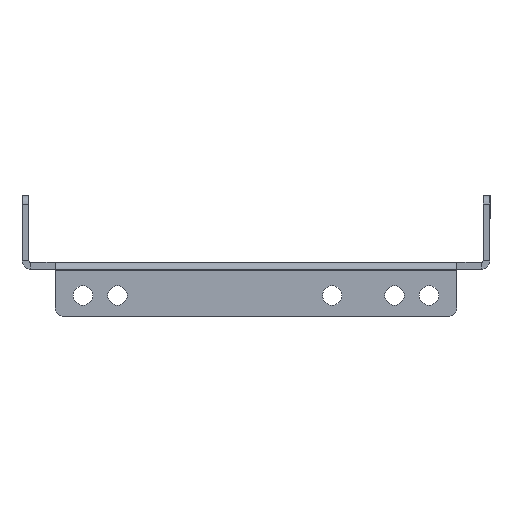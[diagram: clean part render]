
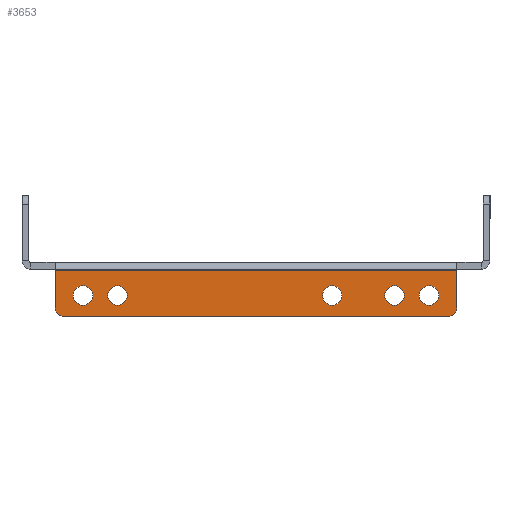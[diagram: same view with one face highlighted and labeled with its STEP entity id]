
A CAD part, left-side view. The second image highlights one B-rep face of the part: STEP entity #3653.
In plain terms, the highlighted planar face has unit normal (-1, 0, 0).
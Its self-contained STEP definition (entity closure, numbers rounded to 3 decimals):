
#50 = AXIS2_PLACEMENT_3D ( 'NONE', #1709, #1687, #351 ) ;
#53 = CARTESIAN_POINT ( 'NONE',  ( -550., -72.5, -14. ) ) ;
#65 = CARTESIAN_POINT ( 'NONE',  ( -550., -69.5, -14. ) ) ;
#74 = CARTESIAN_POINT ( 'NONE',  ( -550., -27.5, -9.5 ) ) ;
#77 = CARTESIAN_POINT ( 'NONE',  ( -550., 50., -13. ) ) ;
#94 = CARTESIAN_POINT ( 'NONE',  ( -550., 62.5, -9.5 ) ) ;
#130 = DIRECTION ( 'NONE',  ( 0., 0., -1. ) ) ;
#185 = FACE_BOUND ( 'NONE', #3485, .T. ) ;
#201 = VERTEX_POINT ( 'NONE', #492 ) ;
#233 = DIRECTION ( 'NONE',  ( 0., 0., 1. ) ) ;
#253 = CARTESIAN_POINT ( 'NONE',  ( -550., -27.5, -6. ) ) ;
#254 = DIRECTION ( 'NONE',  ( 0., 0., 1. ) ) ;
#274 = DIRECTION ( 'NONE',  ( -1., 0., 0. ) ) ;
#351 = DIRECTION ( 'NONE',  ( 0., 0., 1. ) ) ;
#369 = EDGE_CURVE ( 'NONE', #815, #1755, #1418, .T. ) ;
#372 = VERTEX_POINT ( 'NONE', #3093 ) ;
#379 = DIRECTION ( 'NONE',  ( 0., 0., 1. ) ) ;
#435 = LINE ( 'NONE', #1813, #3460 ) ;
#457 = EDGE_CURVE ( 'NONE', #2286, #3848, #435, .T. ) ;
#484 = CIRCLE ( 'NONE', #1937, 3.5 ) ;
#492 = CARTESIAN_POINT ( 'NONE',  ( -550., -50., -6. ) ) ;
#512 = EDGE_CURVE ( 'NONE', #3726, #2925, #2592, .T. ) ;
#522 = DIRECTION ( 'NONE',  ( 0., 1., 0. ) ) ;
#529 = CIRCLE ( 'NONE', #2058, 3.5 ) ;
#558 = ORIENTED_EDGE ( 'NONE', *, *, #369, .F. ) ;
#576 = AXIS2_PLACEMENT_3D ( 'NONE', #2011, #274, #1698 ) ;
#585 = VERTEX_POINT ( 'NONE', #4438 ) ;
#629 = ORIENTED_EDGE ( 'NONE', *, *, #1730, .F. ) ;
#663 = EDGE_CURVE ( 'NONE', #2925, #3726, #484, .T. ) ;
#730 = DIRECTION ( 'NONE',  ( -1., 0., 0. ) ) ;
#748 = EDGE_CURVE ( 'NONE', #2622, #1667, #1189, .T. ) ;
#803 = CARTESIAN_POINT ( 'NONE',  ( -550., -62.5, -6. ) ) ;
#810 = DIRECTION ( 'NONE',  ( 0., 0., -1. ) ) ;
#814 = DIRECTION ( 'NONE',  ( -1., 0., 0. ) ) ;
#815 = VERTEX_POINT ( 'NONE', #1934 ) ;
#833 = CARTESIAN_POINT ( 'NONE',  ( -550., -62.5, -13. ) ) ;
#836 = CIRCLE ( 'NONE', #3662, 3.5 ) ;
#848 = ORIENTED_EDGE ( 'NONE', *, *, #748, .F. ) ;
#882 = DIRECTION ( 'NONE',  ( -1., 0., 0. ) ) ;
#893 = PLANE ( 'NONE',  #2878 ) ;
#897 = EDGE_LOOP ( 'NONE', ( #629, #1708 ) ) ;
#961 = CARTESIAN_POINT ( 'NONE',  ( -550., -50., -9.5 ) ) ;
#1037 = ORIENTED_EDGE ( 'NONE', *, *, #2670, .T. ) ;
#1055 = EDGE_CURVE ( 'NONE', #2622, #585, #3569, .T. ) ;
#1076 = ORIENTED_EDGE ( 'NONE', *, *, #4146, .F. ) ;
#1079 = EDGE_CURVE ( 'NONE', #1859, #201, #3421, .T. ) ;
#1117 = EDGE_LOOP ( 'NONE', ( #3449, #3674 ) ) ;
#1125 = CIRCLE ( 'NONE', #2998, 3. ) ;
#1189 = LINE ( 'NONE', #4264, #3675 ) ;
#1203 = CARTESIAN_POINT ( 'NONE',  ( -550., 72.5, -17. ) ) ;
#1254 = DIRECTION ( 'NONE',  ( -1., 0., 0. ) ) ;
#1282 = CARTESIAN_POINT ( 'NONE',  ( -550., -50., -13. ) ) ;
#1386 = CARTESIAN_POINT ( 'NONE',  ( -550., 72.5, -0.6 ) ) ;
#1418 = CIRCLE ( 'NONE', #50, 3.5 ) ;
#1427 = EDGE_CURVE ( 'NONE', #1554, #585, #2344, .T. ) ;
#1430 = DIRECTION ( 'NONE',  ( 0., 0., 1. ) ) ;
#1520 = CARTESIAN_POINT ( 'NONE',  ( -550., 72.5, -0.6 ) ) ;
#1554 = VERTEX_POINT ( 'NONE', #2429 ) ;
#1559 = FACE_BOUND ( 'NONE', #897, .T. ) ;
#1565 = CARTESIAN_POINT ( 'NONE',  ( -550., -27.5, -9.5 ) ) ;
#1573 = VECTOR ( 'NONE', #4161, 1000. ) ;
#1667 = VERTEX_POINT ( 'NONE', #1520 ) ;
#1687 = DIRECTION ( 'NONE',  ( -1., 0., 0. ) ) ;
#1698 = DIRECTION ( 'NONE',  ( 0., 0., -1. ) ) ;
#1708 = ORIENTED_EDGE ( 'NONE', *, *, #3405, .F. ) ;
#1709 = CARTESIAN_POINT ( 'NONE',  ( -550., 62.5, -9.5 ) ) ;
#1730 = EDGE_CURVE ( 'NONE', #372, #3878, #529, .T. ) ;
#1755 = VERTEX_POINT ( 'NONE', #2582 ) ;
#1813 = CARTESIAN_POINT ( 'NONE',  ( -550., -72.5, -17. ) ) ;
#1838 = DIRECTION ( 'NONE',  ( 0., 0., -1. ) ) ;
#1859 = VERTEX_POINT ( 'NONE', #1282 ) ;
#1911 = DIRECTION ( 'NONE',  ( 0., 0., -1. ) ) ;
#1912 = FACE_BOUND ( 'NONE', #4473, .T. ) ;
#1916 = VERTEX_POINT ( 'NONE', #803 ) ;
#1919 = DIRECTION ( 'NONE',  ( -1., 0., 0. ) ) ;
#1924 = ORIENTED_EDGE ( 'NONE', *, *, #512, .T. ) ;
#1934 = CARTESIAN_POINT ( 'NONE',  ( -550., 62.5, -6. ) ) ;
#1937 = AXIS2_PLACEMENT_3D ( 'NONE', #74, #3556, #810 ) ;
#1944 = DIRECTION ( 'NONE',  ( 1., 0., 0. ) ) ;
#1969 = AXIS2_PLACEMENT_3D ( 'NONE', #2340, #2366, #254 ) ;
#2010 = AXIS2_PLACEMENT_3D ( 'NONE', #2705, #4088, #4481 ) ;
#2011 = CARTESIAN_POINT ( 'NONE',  ( -550., -50., -9.5 ) ) ;
#2050 = AXIS2_PLACEMENT_3D ( 'NONE', #961, #1254, #1911 ) ;
#2058 = AXIS2_PLACEMENT_3D ( 'NONE', #3185, #814, #3893 ) ;
#2096 = ORIENTED_EDGE ( 'NONE', *, *, #1427, .F. ) ;
#2121 = DIRECTION ( 'NONE',  ( -1., 0., 0. ) ) ;
#2238 = DIRECTION ( 'NONE',  ( 0., 0., 1. ) ) ;
#2252 = CIRCLE ( 'NONE', #2010, 3.5 ) ;
#2277 = EDGE_CURVE ( 'NONE', #1916, #4009, #836, .T. ) ;
#2286 = VERTEX_POINT ( 'NONE', #2922 ) ;
#2291 = CARTESIAN_POINT ( 'NONE',  ( -550., 72.5, 0. ) ) ;
#2340 = CARTESIAN_POINT ( 'NONE',  ( -550., 69.5, -14. ) ) ;
#2344 = LINE ( 'NONE', #1203, #3051 ) ;
#2366 = DIRECTION ( 'NONE',  ( -1., 0., 0. ) ) ;
#2387 = CARTESIAN_POINT ( 'NONE',  ( -550., -27.5, -13. ) ) ;
#2429 = CARTESIAN_POINT ( 'NONE',  ( -550., -69.5, -17. ) ) ;
#2542 = ORIENTED_EDGE ( 'NONE', *, *, #457, .F. ) ;
#2582 = CARTESIAN_POINT ( 'NONE',  ( -550., 62.5, -13. ) ) ;
#2592 = CIRCLE ( 'NONE', #2869, 3.5 ) ;
#2622 = VERTEX_POINT ( 'NONE', #4196 ) ;
#2670 = EDGE_CURVE ( 'NONE', #1554, #3848, #1125, .T. ) ;
#2705 = CARTESIAN_POINT ( 'NONE',  ( -550., 50., -9.5 ) ) ;
#2869 = AXIS2_PLACEMENT_3D ( 'NONE', #1565, #1944, #3320 ) ;
#2878 = AXIS2_PLACEMENT_3D ( 'NONE', #2291, #730, #379 ) ;
#2922 = CARTESIAN_POINT ( 'NONE',  ( -550., -72.5, -0.6 ) ) ;
#2925 = VERTEX_POINT ( 'NONE', #2387 ) ;
#2939 = CARTESIAN_POINT ( 'NONE',  ( -550., -62.5, -9.5 ) ) ;
#2979 = EDGE_LOOP ( 'NONE', ( #558, #4130 ) ) ;
#2993 = ORIENTED_EDGE ( 'NONE', *, *, #4277, .T. ) ;
#2998 = AXIS2_PLACEMENT_3D ( 'NONE', #65, #1919, #233 ) ;
#3051 = VECTOR ( 'NONE', #522, 1000. ) ;
#3093 = CARTESIAN_POINT ( 'NONE',  ( -550., 50., -6. ) ) ;
#3185 = CARTESIAN_POINT ( 'NONE',  ( -550., 50., -9.5 ) ) ;
#3294 = FACE_BOUND ( 'NONE', #1117, .T. ) ;
#3320 = DIRECTION ( 'NONE',  ( 0., 0., -1. ) ) ;
#3392 = AXIS2_PLACEMENT_3D ( 'NONE', #94, #2121, #1430 ) ;
#3405 = EDGE_CURVE ( 'NONE', #3878, #372, #2252, .T. ) ;
#3421 = CIRCLE ( 'NONE', #2050, 3.5 ) ;
#3449 = ORIENTED_EDGE ( 'NONE', *, *, #2277, .F. ) ;
#3460 = VECTOR ( 'NONE', #1838, 1000. ) ;
#3475 = CIRCLE ( 'NONE', #4331, 3.5 ) ;
#3485 = EDGE_LOOP ( 'NONE', ( #1076, #3498 ) ) ;
#3498 = ORIENTED_EDGE ( 'NONE', *, *, #1079, .F. ) ;
#3556 = DIRECTION ( 'NONE',  ( 1., 0., 0. ) ) ;
#3569 = CIRCLE ( 'NONE', #1969, 3. ) ;
#3653 = ADVANCED_FACE ( 'NONE', ( #1912, #3294, #185, #1559, #4330, #4001 ), #893, .T. ) ;
#3662 = AXIS2_PLACEMENT_3D ( 'NONE', #4259, #4323, #4019 ) ;
#3674 = ORIENTED_EDGE ( 'NONE', *, *, #4471, .F. ) ;
#3675 = VECTOR ( 'NONE', #2238, 1000. ) ;
#3723 = ORIENTED_EDGE ( 'NONE', *, *, #663, .T. ) ;
#3726 = VERTEX_POINT ( 'NONE', #253 ) ;
#3848 = VERTEX_POINT ( 'NONE', #53 ) ;
#3878 = VERTEX_POINT ( 'NONE', #77 ) ;
#3893 = DIRECTION ( 'NONE',  ( 0., 0., 1. ) ) ;
#3901 = CIRCLE ( 'NONE', #3392, 3.5 ) ;
#3902 = EDGE_CURVE ( 'NONE', #1755, #815, #3901, .T. ) ;
#4001 = FACE_OUTER_BOUND ( 'NONE', #4008, .T. ) ;
#4008 = EDGE_LOOP ( 'NONE', ( #2096, #1037, #2542, #2993, #848, #4364 ) ) ;
#4009 = VERTEX_POINT ( 'NONE', #833 ) ;
#4019 = DIRECTION ( 'NONE',  ( 0., 0., -1. ) ) ;
#4088 = DIRECTION ( 'NONE',  ( -1., 0., 0. ) ) ;
#4130 = ORIENTED_EDGE ( 'NONE', *, *, #3902, .F. ) ;
#4146 = EDGE_CURVE ( 'NONE', #201, #1859, #4395, .T. ) ;
#4161 = DIRECTION ( 'NONE',  ( 0., 1., 0. ) ) ;
#4182 = LINE ( 'NONE', #1386, #1573 ) ;
#4196 = CARTESIAN_POINT ( 'NONE',  ( -550., 72.5, -14. ) ) ;
#4259 = CARTESIAN_POINT ( 'NONE',  ( -550., -62.5, -9.5 ) ) ;
#4264 = CARTESIAN_POINT ( 'NONE',  ( -550., 72.5, 0. ) ) ;
#4277 = EDGE_CURVE ( 'NONE', #2286, #1667, #4182, .T. ) ;
#4323 = DIRECTION ( 'NONE',  ( -1., 0., 0. ) ) ;
#4330 = FACE_BOUND ( 'NONE', #2979, .T. ) ;
#4331 = AXIS2_PLACEMENT_3D ( 'NONE', #2939, #882, #130 ) ;
#4364 = ORIENTED_EDGE ( 'NONE', *, *, #1055, .T. ) ;
#4395 = CIRCLE ( 'NONE', #576, 3.5 ) ;
#4438 = CARTESIAN_POINT ( 'NONE',  ( -550., 69.5, -17. ) ) ;
#4471 = EDGE_CURVE ( 'NONE', #4009, #1916, #3475, .T. ) ;
#4473 = EDGE_LOOP ( 'NONE', ( #3723, #1924 ) ) ;
#4481 = DIRECTION ( 'NONE',  ( 0., 0., 1. ) ) ;
